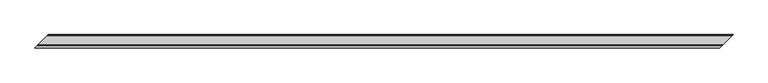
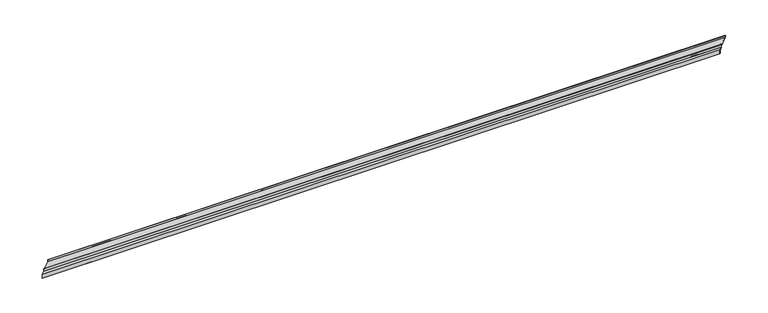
"""IFC4 building model written with IfcOpenShell, lengths in millimetres: proxy geometry, АК1_1 Примыкание к фундаментной балке : АК1_1 Примыкание к фундаментной балке."""

from ifc_helpers import new_model, si_unit, origin, place, context, project, spatial, faceted_brep, source, transform, mapped, element, save


def generic_models_0364e8e2(model_context):
    return source(origin(), model_context, "Body", "Brep", [
        faceted_brep([(116.5, 116.5, 9.0), (120.7449534, 120.7449534, 17.660254), (8120.6871185, 120.7449534, 17.660254), (8116.4421652, 116.5, 9.0), (1.5, 1.5, 9.0), (8001.4421652, 1.5, 9.0), (0.0, 0.0, 6.4019238), (7999.9421652, 0.0, 6.4019238), (7986.4421652, -13.5, -16.9807621), (-13.5, -13.5, -16.9807621), (-14.3660254, -14.3660254, -16.4807621), (7985.5761398, -14.3660254, -16.4807621), (0.9226497, 0.9226497, 10.0), (0.0, 0.0, 8.4019238), (7999.9421652, 0.0, 8.4019238), (8000.8648149, 0.9226497, 10.0), (115.9226497, 115.9226497, 10.0), (8115.8648149, 115.9226497, 10.0), (119.8842356, 119.8842356, 18.0821477), (8119.8264008, 119.8842356, 18.0821477)], [[[0, 1, 2, 3]], [[4, 0, 3, 5]], [[6, 4, 5, 7, 8, 9]], [[10, 9, 8, 11]], [[12, 13, 10, 11, 14, 15]], [[16, 12, 15, 17]], [[18, 16, 17, 19]], [[1, 18, 19, 2]], [[6, 13, 12, 16, 18, 1, 0, 4]], [[13, 6, 9, 10]], [[14, 7, 5, 3, 2, 19, 17, 15]], [[7, 14, 11, 8]]]),
        faceted_brep([(-4.5, -4.5, 33.6294353), (-4.5, -4.5, 3.6294353), (7995.4421652, -4.5, 3.6294353), (7995.4421652, -4.5, 33.6294353), (-3.5, -3.5, 33.6294353), (7996.4421652, -3.5, 33.6294353), (-3.5, -3.5, 2.7903356), (7996.4421652, -3.5, 2.7903356), (-33.0442326, -33.0442326, -2.4191097), (7966.8979326, -33.0442326, -2.4191097), (-33.0442326, -33.0442326, -49.1657965), (7966.8979326, -33.0442326, -49.1657965), (-20.6092037, -20.6092037, -36.7307676), (7979.3329614, -20.6092037, -36.7307676), (-19.902097, -19.902097, -37.4378744), (7980.0400682, -19.902097, -37.4378744), (-34.0442326, -34.0442326, -51.58001), (7965.8979326, -34.0442326, -51.58001), (-34.0442326, -34.0442326, -1.58001), (7965.8979326, -34.0442326, -1.58001)], [[[0, 1, 2, 3]], [[4, 0, 3, 5]], [[6, 4, 5, 7]], [[8, 6, 7, 9]], [[10, 8, 9, 11]], [[12, 10, 11, 13]], [[14, 12, 13, 15]], [[16, 14, 15, 17]], [[18, 16, 17, 19]], [[1, 18, 19, 2]], [[1, 0, 4, 6, 8, 10, 12, 14, 16, 18]], [[3, 2, 19, 17, 15, 13, 11, 9, 7, 5]]]),
        faceted_brep([(-3.5, -3.5, 35.0), (-3.5, -3.5, 10.0), (7996.4421652, -3.5, 10.0), (7996.4421652, -3.5, 35.0), (-1.5, -1.5, 35.0), (7998.4421652, -1.5, 35.0), (-1.5, -1.5, 12.0), (7998.4421652, -1.5, 12.0), (112.5, 112.5, 12.0), (0.0, 0.0, 12.0), (7999.9421652, 0.0, 12.0), (8112.4421652, 112.5, 12.0), (112.5, 112.5, 35.0), (8112.4421652, 112.5, 35.0), (114.5, 114.5, 35.0), (8114.4421652, 114.5, 35.0), (114.5, 114.5, 10.0), (8114.4421652, 114.5, 10.0), (0.0, 0.0, 10.0), (7999.9421652, 0.0, 10.0)], [[[0, 1, 2, 3]], [[4, 0, 3, 5]], [[6, 4, 5, 7]], [[8, 9, 6, 7, 10, 11]], [[12, 8, 11, 13]], [[14, 12, 13, 15]], [[16, 14, 15, 17]], [[18, 16, 17, 19, 2, 1]], [[9, 18, 1, 0, 4, 6]], [[19, 10, 7, 5, 3, 2]], [[18, 9, 8, 12, 14, 16]], [[10, 19, 17, 15, 13, 11]]]),
    ])


if __name__ == "__main__":
    model = new_model("IFC4")
    model_context = context("Model", 3, world=origin())
    ifc_project = project(units=[si_unit("LENGTHUNIT", "METRE", prefix="MILLI")], contexts=[model_context])
    site = spatial("IfcSite", under=ifc_project)
    building = spatial("IfcBuilding", under=site)
    placement = place(None, origin())
    generic_models_shape = generic_models_0364e8e2(model_context)
    element("IfcBuildingElementProxy", 1, Name="АК1_1 Примыкание к фундаментной балке : АК1_1 Примыкание к фундаментной балке", ObjectType="АК1_1 Примыкание к фундаментной балке : АК1_1 Примыкание к фундаментной балке", at=placement, inside=building, context=model_context, shape_type="MappedRepresentation", body=[
        mapped(generic_models_shape, transform((0.0, 0.0, 0.0), x_axis=(1.0, 0.0, 0.0), y_axis=(0.0, 1.0, 0.0), z_axis=(0.0, 0.0, 1.0))),
    ])
    save(model, "model.ifc")
